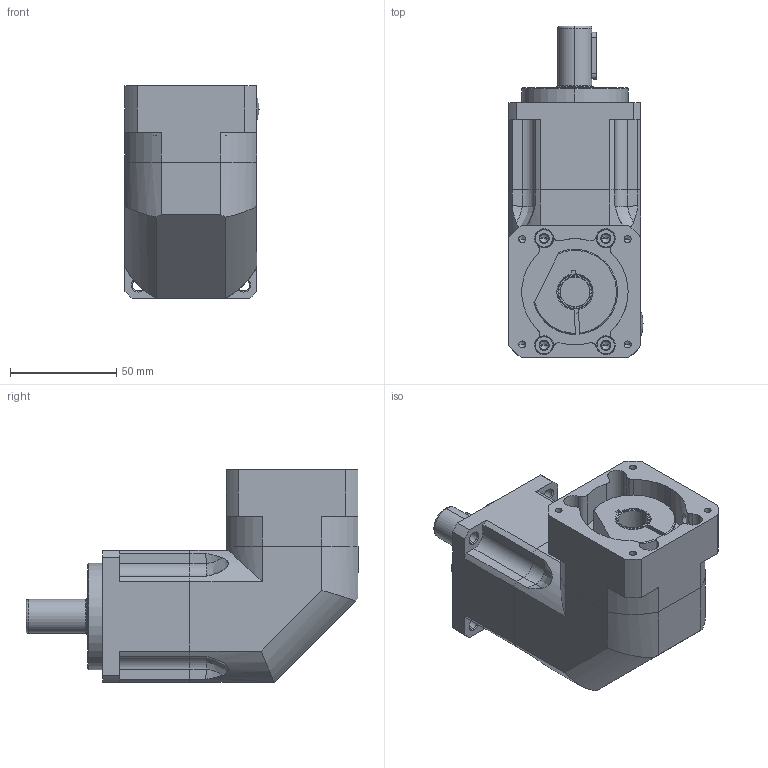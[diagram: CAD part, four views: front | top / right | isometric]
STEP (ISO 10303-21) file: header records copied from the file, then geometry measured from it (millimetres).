
FILE_DESCRIPTION (( 'STEP AP203' ), '1' );
FILE_NAME ('LBR060-(L1)-S2-P2-5070M4-S16.STEP', '2024-11-15T00:18:58', ( '微软用户' ), ( '微软中国' ), 'SwSTEP 2.0', 'SolidWorks 2022', '' );
FILE_SCHEMA (( 'CONFIG_CONTROL_DESIGN' ));
Length unit declared in the file: millimetre
Products named in the file (1): LBR060-(L1)-S2-P2-5070M4-S16
Bounding box: 63 x 156 x 100 mm (x, y, z)
Volume: 488833.3 mm3; surface area: 71006 mm2
Topology: 8 solids, 8 shells, 366 faces, 888 edges, 537 vertices
Faces by surface type: plane 133, cylinder 116, cone 81, bspline 28, torus 8
Entity records: 12939 total; most frequent: CARTESIAN_POINT 4529, ORIENTED_EDGE 1736, DIRECTION 1720, EDGE_CURVE 868, AXIS2_PLACEMENT_3D 668, VERTEX_POINT 537, EDGE_LOOP 405, LINE 384
